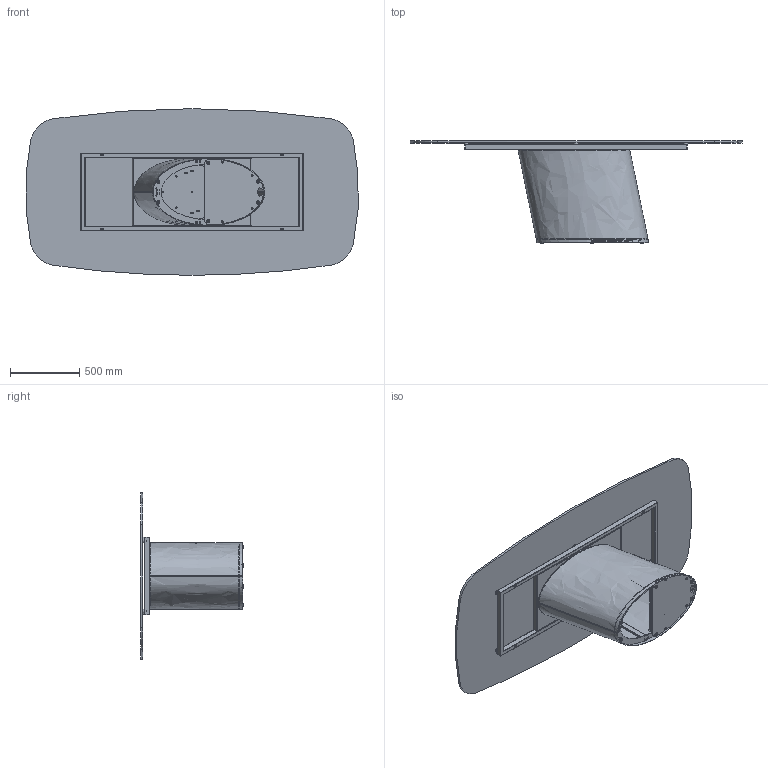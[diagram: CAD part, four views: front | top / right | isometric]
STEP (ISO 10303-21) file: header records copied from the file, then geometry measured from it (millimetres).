
FILE_DESCRIPTION (( 'STEP AP203' ), '1' );
FILE_NAME ('DO43G.STEP', '2024-08-06T13:15:19', ( '' ), ( '' ), 'SwSTEP 2.0', 'SolidWorks 2022', '' );
FILE_SCHEMA (( 'CONFIG_CONTROL_DESIGN' ));
Length unit declared in the file: millimetre
Products named in the file (22): C4XCRXX-00-Piani Sagomati in Cristallo_2400 x 1200; TTAV01_01-05-TELAIO UNIVERSALE X TAVOLI 180 240cm; piedino dorado; DOB000000_03-00-Piastra  inferiore_Default<A macchina>; DOB000000_01-00-piastra superiore _Default<A macchina>; DOB000000-00-DORADO BASE GREZZO; DOB000000_08-00-Zavorra inferiore_Default<A macchina>; DOB000000_07-00-lamiera guscio sx_Default<A macchina>; TTAV01-05-TELAIO UNIVERSALE X TAVOLI 180 240cm; rondella M8_8X24; DO43G; M8xXXmm_M8X30mm; DOB000000_02-00-barra rettangoalre di supporto_Default<A macchina>; nut_M8_M8; 434070-00-PIEDINO TPV GOMMA NERO D. 30x8max18_filo estetico; DOB000000_06-00-Lamiera guscio dx_Default<A macchina>; barra filettata H.72cm_barra; M8xXXmm_M8x20mm; DOB000000_04-00-contrapesso filettato_Default<A macchina>; DOB000000_05-00-Zavorra intenra del dorado_Default<A macchina>; COLLO TELAIO UNIVERSALE TTAV01 CON FERRAMENTA_MTG TOP CRISTALLO VERNICIATO-CERAMICA; TTAV01_02-05-VASSOIO IRRIGIDIMENTO TELAIO UNIVERSALE
Assembly tree (48 placements, depth 4):
  DO43G
    DOB000000-00-DORADO BASE GREZZO
      DOB000000_08-00-Zavorra inferiore_Default<A macchina>
      DOB000000_04-00-contrapesso filettato_Default<A macchina>
      DOB000000_05-00-Zavorra intenra del dorado_Default<A macchina>  x4
      DOB000000_01-00-piastra superiore _Default<A macchina>
      DOB000000_07-00-lamiera guscio sx_Default<A macchina>
      DOB000000_02-00-barra rettangoalre di supporto_Default<A macchina>  x4
      DOB000000_03-00-Piastra  inferiore_Default<A macchina>
      DOB000000_06-00-Lamiera guscio dx_Default<A macchina>
      M8xXXmm_M8X30mm  x4
      nut_M8_M8  x2
      piedino dorado  x6
      barra filettata H.72cm_barra  x2
    COLLO TELAIO UNIVERSALE TTAV01 CON FERRAMENTA_MTG TOP CRISTALLO VERNICIATO-CERAMICA
      TTAV01-05-TELAIO UNIVERSALE X TAVOLI 180 240cm
        TTAV01_02-05-VASSOIO IRRIGIDIMENTO TELAIO UNIVERSALE
        TTAV01_01-05-TELAIO UNIVERSALE X TAVOLI 180 240cm
      434070-00-PIEDINO TPV GOMMA NERO D. 30x8max18_filo estetico  x6
    rondella M8_8X24  x4
    M8xXXmm_M8x20mm  x4
    C4XCRXX-00-Piani Sagomati in Cristallo_2400 x 1200
Bounding box: 2391.62 x 737 x 1200 mm (x, y, z)
Volume: 51980044.1 mm3; surface area: 12669609.8 mm2
Topology: 57 solids, 57 shells, 1293 faces, 3079 edges, 1910 vertices
Faces by surface type: cylinder 507, plane 468, torus 148, cone 136, bspline 26, sphere 8
Entity records: 28209 total; most frequent: CARTESIAN_POINT 8070, DIRECTION 3717, ORIENTED_EDGE 3438, EDGE_CURVE 1719, AXIS2_PLACEMENT_3D 1399, VERTEX_POINT 1100, LINE 919, VECTOR 919
